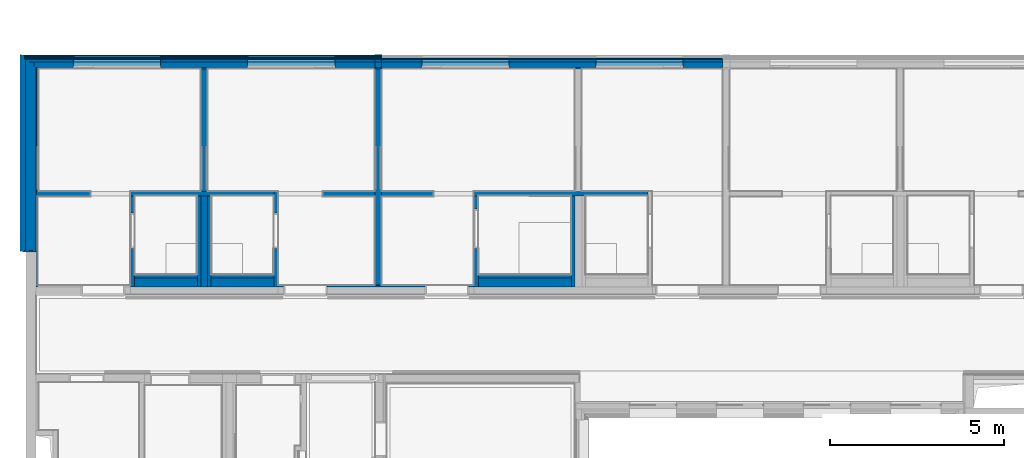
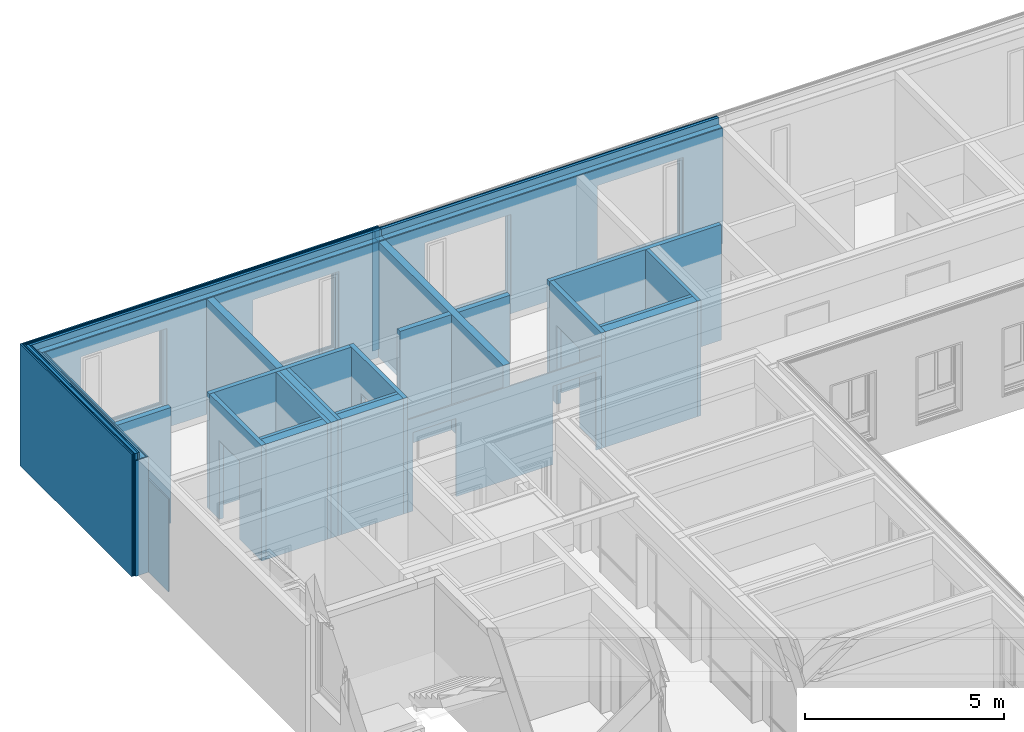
# One storey, part 35 of 222: 51 walls, 27 openings.
"""IFC4 building model written with IfcOpenShell, lengths in metres."""

from ifc_helpers import new_model, entity, si_unit, converted_unit, derived_unit, frame, frame_2d, origin, origin_with_axes, place, context, subcontext, project, spatial, polyline, rectangle, outline, extrude, material, element, save


model = new_model("IFC4")

# Units and contexts
model_context = context("Model", 3, precision=1e-05, world=origin())
body_context = subcontext(model_context, "Body", "Model", "MODEL_VIEW")
ifc_project = project(units=[si_unit("LENGTHUNIT", "METRE"), si_unit("AREAUNIT", "SQUARE_METRE"), si_unit("VOLUMEUNIT", "CUBIC_METRE"), si_unit("MASSUNIT", "GRAM", prefix="KILO"), converted_unit("PLANEANGLEUNIT", "DEGREE", entity("IfcPlaneAngleMeasure", 0.0174532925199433), si_unit("PLANEANGLEUNIT", "RADIAN"), dimensions=[0, 0, 0, 0, 0, 0, 0]), derived_unit("THERMALTRANSMITTANCEUNIT", [(si_unit("POWERUNIT", "WATT"), 1), (si_unit("THERMODYNAMICTEMPERATUREUNIT", "KELVIN"), -1), (si_unit("LENGTHUNIT", "METRE"), -2)]), derived_unit("VOLUMETRICFLOWRATEUNIT", [(si_unit("LENGTHUNIT", "METRE"), 3), (converted_unit("TIMEUNIT", "hour", entity("IfcTimeMeasure", 3600.0), si_unit("TIMEUNIT", "SECOND"), dimensions=[0, 0, 1, 0, 0, 0, 0]), -1), (si_unit("LENGTHUNIT", "METRE"), -1)])], contexts=[model_context])

# Site, building, storey
site_placement = place(None, origin())
site = spatial("IfcSite", under=ifc_project, at=site_placement, Name="Psychiatrie Neubau Wunstorf", CompositionType="ELEMENT")
building_placement = place(site_placement, origin())
building = spatial("IfcBuilding", under=site, at=building_placement, Name="Neubau H2 Stationsgebäude", CompositionType="ELEMENT")
storey_placement = place(building_placement, frame((0.0, 0.0, 3.6)))
storey = spatial("IfcBuildingStorey", under=building, at=storey_placement, Name="H2 Ebene +1", CompositionType="ELEMENT", Elevation=3.6)

# Wall
ifc_material_1 = material(Name="WA-LB")
wall_1_placement = place(storey_placement, frame((0.168999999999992, 25.3892625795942, 0.0), z_axis=(0.0, 0.0, 1.0), x_axis=(-1.0, 0.0, 0.0)))
element("IfcWall", 1, at=wall_1_placement, inside=storey, material=ifc_material_1, context=body_context, shape_type="SweptSolid", body=[
    extrude(rectangle(XDim=0.37, YDim=0.036, at=frame_2d((0.185, 0.018), x_axis=(1.0, 0.0))), origin_with_axes(), (0.0, 0.0, 1.0), 3.55),
])

# Wall, openings
ifc_material_2 = material(Name="WA-LB")
wall_2_placement = place(storey_placement, frame((10.1, 30.614, 0.0)))
wall_2 = element("IfcWall", 2, at=wall_2_placement, inside=storey, material=ifc_material_2, context=body_context, shape_type="SweptSolid", body=[
    extrude(rectangle(XDim=9.8, YDim=0.036, at=frame_2d((4.9, 0.018), x_axis=(1.0, 0.0))), origin_with_axes(), (0.0, 0.0, 1.0), 3.55),
])
opening_1_placement = place(wall_2_placement, frame((1.15, 0.0, 0.55), z_axis=(0.0, 1.0, 0.0), x_axis=(0.0, 0.0, 1.0)))
element("IfcOpeningElement", 3, at=opening_1_placement, cuts=wall_2, Name="Fensteröffnung", ObjectType="Opening", context=body_context, shape_type="SweptSolid", body=[
    extrude(outline(polyline([(2.5, 2.5), (2.5, 0.0), (0.0, 0.0), (0.0, 2.5), (2.5, 2.5)])), origin_with_axes(), (0.0, 0.0, 1.0), 0.036),
])
opening_2_placement = place(wall_2_placement, frame((6.15, 0.0, 0.55), z_axis=(0.0, 1.0, 0.0), x_axis=(0.0, 0.0, 1.0)))
element("IfcOpeningElement", 4, at=opening_2_placement, cuts=wall_2, Name="Fensteröffnung", ObjectType="Opening", context=body_context, shape_type="SweptSolid", body=[
    extrude(outline(polyline([(2.5, 2.5), (2.5, 0.0), (0.0, 0.0), (0.0, 2.5), (2.5, 2.5)])), origin_with_axes(), (0.0, 0.0, 1.0), 0.036),
])

ifc_material_3 = material(Name="WA-HD")
wall_3_placement = place(storey_placement, frame((10.1, 30.65, 0.0)))
wall_3 = element("IfcWall", 5, at=wall_3_placement, inside=storey, material=ifc_material_3, context=body_context, shape_type="SweptSolid", body=[
    extrude(rectangle(XDim=9.8, YDim=0.16, at=frame_2d((4.9, 0.08), x_axis=(1.0, 0.0))), origin_with_axes(), (0.0, 0.0, 1.0), 3.55),
])
opening_3_placement = place(wall_3_placement, frame((1.15, 0.0, 0.55), z_axis=(0.0, 1.0, 0.0), x_axis=(0.0, 0.0, 1.0)))
element("IfcOpeningElement", 6, at=opening_3_placement, cuts=wall_3, Name="Fensteröffnung", ObjectType="Opening", context=body_context, shape_type="SweptSolid", body=[
    extrude(outline(polyline([(2.5, 2.5), (2.5, 0.0), (0.0, 0.0), (0.0, 2.5), (2.5, 2.5)])), origin_with_axes(), (0.0, 0.0, 1.0), 0.16),
])
opening_4_placement = place(wall_3_placement, frame((6.15, 0.0, 0.55), z_axis=(0.0, 1.0, 0.0), x_axis=(0.0, 0.0, 1.0)))
element("IfcOpeningElement", 7, at=opening_4_placement, cuts=wall_3, Name="Fensteröffnung", ObjectType="Opening", context=body_context, shape_type="SweptSolid", body=[
    extrude(outline(polyline([(2.5, 2.5), (2.5, 0.0), (0.0, 0.0), (0.0, 2.5), (2.5, 2.5)])), origin_with_axes(), (0.0, 0.0, 1.0), 0.16),
])

ifc_material_4 = material(Name="WA-DL")
wall_4_placement = place(storey_placement, frame((10.1, 30.81, 0.0)))
wall_4 = element("IfcWall", 8, at=wall_4_placement, inside=storey, material=ifc_material_4, context=body_context, shape_type="SweptSolid", body=[
    extrude(rectangle(XDim=9.8, YDim=0.08, at=frame_2d((4.9, 0.04), x_axis=(1.0, 0.0))), origin_with_axes(), (0.0, 0.0, 1.0), 3.75),
])
opening_5_placement = place(wall_4_placement, frame((1.15, 0.0, 0.55), z_axis=(0.0, 1.0, 0.0), x_axis=(0.0, 0.0, 1.0)))
element("IfcOpeningElement", 9, at=opening_5_placement, cuts=wall_4, Name="Fensteröffnung", ObjectType="Opening", context=body_context, shape_type="SweptSolid", body=[
    extrude(outline(polyline([(2.5, 2.5), (2.5, 0.0), (0.0, 0.0), (0.0, 2.5), (2.5, 2.5)])), origin_with_axes(), (0.0, 0.0, 1.0), 0.08),
])
opening_6_placement = place(wall_4_placement, frame((6.15, 0.0, 0.55), z_axis=(0.0, 1.0, 0.0), x_axis=(0.0, 0.0, 1.0)))
element("IfcOpeningElement", 10, at=opening_6_placement, cuts=wall_4, Name="Fensteröffnung", ObjectType="Opening", context=body_context, shape_type="SweptSolid", body=[
    extrude(outline(polyline([(2.5, 2.5), (2.5, 0.0), (0.0, 0.0), (0.0, 2.5), (2.5, 2.5)])), origin_with_axes(), (0.0, 0.0, 1.0), 0.08),
])

ifc_material_5 = material(Name="WA-LB")
wall_5_placement = place(storey_placement, frame((10.1, 30.89, 0.0)))
wall_5 = element("IfcWall", 11, at=wall_5_placement, inside=storey, material=ifc_material_5, context=body_context, shape_type="SweptSolid", body=[
    extrude(rectangle(XDim=9.8, YDim=0.036, at=frame_2d((4.9, 0.018), x_axis=(1.0, 0.0))), origin_with_axes(), (0.0, 0.0, 1.0), 3.75),
])
opening_7_placement = place(wall_5_placement, frame((1.15, 0.0, 0.55), z_axis=(0.0, 1.0, 0.0), x_axis=(0.0, 0.0, 1.0)))
element("IfcOpeningElement", 12, at=opening_7_placement, cuts=wall_5, Name="Fensteröffnung", ObjectType="Opening", context=body_context, shape_type="SweptSolid", body=[
    extrude(outline(polyline([(2.5, 2.5), (2.5, 0.0), (0.0, 0.0), (0.0, 2.5), (2.5, 2.5)])), origin_with_axes(), (0.0, 0.0, 1.0), 0.036),
])
opening_8_placement = place(wall_5_placement, frame((6.15, 0.0, 0.55), z_axis=(0.0, 1.0, 0.0), x_axis=(0.0, 0.0, 1.0)))
element("IfcOpeningElement", 13, at=opening_8_placement, cuts=wall_5, Name="Fensteröffnung", ObjectType="Opening", context=body_context, shape_type="SweptSolid", body=[
    extrude(outline(polyline([(2.5, 2.5), (2.5, 0.0), (0.0, 0.0), (0.0, 2.5), (2.5, 2.5)])), origin_with_axes(), (0.0, 0.0, 1.0), 0.036),
])

# Walls
ifc_material_6 = material(Name="WA-LB")
wall_6_placement = place(storey_placement, frame((9.9, 30.614, 0.0)))
element("IfcWall", 14, at=wall_6_placement, inside=storey, material=ifc_material_6, Name="2x Gipsfaserplatte", context=body_context, shape_type="SweptSolid", body=[
    extrude(rectangle(XDim=0.2, YDim=0.036, at=frame_2d((0.1, 0.018), x_axis=(1.0, 0.0))), origin_with_axes(), (0.0, 0.0, 1.0), 3.55),
])
ifc_material_7 = material(Name="WA-HD")
wall_7_placement = place(storey_placement, frame((9.9, 30.65, 0.0)))
element("IfcWall", 15, at=wall_7_placement, inside=storey, material=ifc_material_7, Name="Holzständer + Zwischendämmung", context=body_context, shape_type="SweptSolid", body=[
    extrude(rectangle(XDim=0.2, YDim=0.16, at=frame_2d((0.1, 0.08), x_axis=(1.0, 0.0))), origin_with_axes(), (0.0, 0.0, 1.0), 3.55),
])
ifc_material_8 = material(Name="WA-DL")
wall_8_placement = place(storey_placement, frame((9.9, 30.81, 0.0)))
element("IfcWall", 16, at=wall_8_placement, inside=storey, material=ifc_material_8, Name="Staffel + Zwischendämmung", context=body_context, shape_type="SweptSolid", body=[
    extrude(rectangle(XDim=0.2, YDim=0.08, at=frame_2d((0.1, 0.04), x_axis=(1.0, 0.0))), origin_with_axes(), (0.0, 0.0, 1.0), 3.75),
])
ifc_material_9 = material(Name="WA-LB")
wall_9_placement = place(storey_placement, frame((9.9, 30.89, 0.0)))
element("IfcWall", 17, at=wall_9_placement, inside=storey, material=ifc_material_9, context=body_context, shape_type="SweptSolid", body=[
    extrude(rectangle(XDim=0.2, YDim=0.036, at=frame_2d((0.1, 0.018), x_axis=(1.0, 0.0))), origin_with_axes(), (0.0, 0.0, 1.0), 3.75),
])
ifc_material_10 = material(Name="WA-KL")
wall_10_placement = place(storey_placement, frame((9.9, 30.926, 0.0)))
element("IfcWall", 18, at=wall_10_placement, inside=storey, material=ifc_material_10, Name="Konterlattung", context=body_context, shape_type="SweptSolid", body=[
    extrude(rectangle(XDim=0.2, YDim=0.024, at=frame_2d((0.1, 0.012), x_axis=(1.0, 0.0))), origin_with_axes(), (0.0, 0.0, 1.0), 3.75),
])
ifc_material_11 = material(Name="WA-TL")
wall_11_placement = place(storey_placement, frame((9.9, 30.95, 0.0)))
element("IfcWall", 19, at=wall_11_placement, inside=storey, material=ifc_material_11, Name="Traglattung", context=body_context, shape_type="SweptSolid", body=[
    extrude(rectangle(XDim=0.2, YDim=0.024, at=frame_2d((0.1, 0.012), x_axis=(1.0, 0.0))), origin_with_axes(), (0.0, 0.0, 1.0), 3.75),
])
ifc_material_12 = material(Name="WA-HS")
wall_12_placement = place(storey_placement, frame((9.9, 30.974, 0.0)))
element("IfcWall", 20, at=wall_12_placement, inside=storey, material=ifc_material_12, Name="Holzschindel", context=body_context, shape_type="SweptSolid", body=[
    extrude(rectangle(XDim=0.2, YDim=0.042, at=frame_2d((0.1, 0.021), x_axis=(1.0, 0.0))), origin_with_axes(), (0.0, 0.0, 1.0), 3.75),
])

# Wall, openings
ifc_material_13 = material(Name="WA-LB")
wall_13_placement = place(storey_placement, frame((0.169, 30.614, 0.0)))
wall_13 = element("IfcWall", 21, at=wall_13_placement, inside=storey, material=ifc_material_13, context=body_context, shape_type="SweptSolid", body=[
    extrude(rectangle(XDim=9.731, YDim=0.036, at=frame_2d((4.8655, 0.018), x_axis=(1.0, 0.0))), origin_with_axes(), (0.0, 0.0, 1.0), 3.55),
])
opening_9_placement = place(wall_13_placement, frame((6.081, 0.0, 0.55), z_axis=(0.0, 1.0, 0.0), x_axis=(0.0, 0.0, 1.0)))
element("IfcOpeningElement", 22, at=opening_9_placement, cuts=wall_13, Name="Fensteröffnung", ObjectType="Opening", context=body_context, shape_type="SweptSolid", body=[
    extrude(outline(polyline([(2.5, 2.5), (2.5, 0.0), (0.0, 0.0), (0.0, 2.5), (2.5, 2.5)])), origin_with_axes(), (0.0, 0.0, 1.0), 0.036),
])
opening_10_placement = place(wall_13_placement, frame((1.081, 0.0, 0.55), z_axis=(0.0, 1.0, 0.0), x_axis=(0.0, 0.0, 1.0)))
element("IfcOpeningElement", 23, at=opening_10_placement, cuts=wall_13, Name="Fensteröffnung", ObjectType="Opening", context=body_context, shape_type="SweptSolid", body=[
    extrude(outline(polyline([(2.5, 2.5), (2.5, 0.0), (0.0, 0.0), (0.0, 2.5), (2.5, 2.5)])), origin_with_axes(), (0.0, 0.0, 1.0), 0.036),
])

ifc_material_14 = material(Name="WA-HD")
wall_14_placement = place(storey_placement, frame((0.114, 30.65, 0.0)))
wall_14 = element("IfcWall", 24, at=wall_14_placement, inside=storey, material=ifc_material_14, context=body_context, shape_type="SweptSolid", body=[
    extrude(rectangle(XDim=9.786, YDim=0.16, at=frame_2d((4.893, 0.08), x_axis=(1.0, 0.0))), origin_with_axes(), (0.0, 0.0, 1.0), 3.55),
])
opening_11_placement = place(wall_14_placement, frame((6.136, 0.0, 0.55), z_axis=(0.0, 1.0, 0.0), x_axis=(0.0, 0.0, 1.0)))
element("IfcOpeningElement", 25, at=opening_11_placement, cuts=wall_14, Name="Fensteröffnung", ObjectType="Opening", context=body_context, shape_type="SweptSolid", body=[
    extrude(outline(polyline([(2.5, 2.5), (2.5, 0.0), (0.0, 0.0), (0.0, 2.5), (2.5, 2.5)])), origin_with_axes(), (0.0, 0.0, 1.0), 0.16),
])
opening_12_placement = place(wall_14_placement, frame((1.136, 0.0, 0.55), z_axis=(0.0, 1.0, 0.0), x_axis=(0.0, 0.0, 1.0)))
element("IfcOpeningElement", 26, at=opening_12_placement, cuts=wall_14, Name="Fensteröffnung", ObjectType="Opening", context=body_context, shape_type="SweptSolid", body=[
    extrude(outline(polyline([(2.5, 2.5), (2.5, 0.0), (0.0, 0.0), (0.0, 2.5), (2.5, 2.5)])), origin_with_axes(), (0.0, 0.0, 1.0), 0.16),
])

ifc_material_15 = material(Name="WA-DL")
wall_15_placement = place(storey_placement, frame((-0.121, 30.81, 0.0)))
wall_15 = element("IfcWall", 27, at=wall_15_placement, inside=storey, material=ifc_material_15, context=body_context, shape_type="SweptSolid", body=[
    extrude(rectangle(XDim=10.021, YDim=0.08, at=frame_2d((5.0105, 0.04), x_axis=(1.0, 0.0))), origin_with_axes(), (0.0, 0.0, 1.0), 3.75),
])
opening_13_placement = place(wall_15_placement, frame((6.371, 0.0, 0.55), z_axis=(0.0, 1.0, 0.0), x_axis=(0.0, 0.0, 1.0)))
element("IfcOpeningElement", 28, at=opening_13_placement, cuts=wall_15, Name="Fensteröffnung", ObjectType="Opening", context=body_context, shape_type="SweptSolid", body=[
    extrude(outline(polyline([(2.5, 2.5), (2.5, 0.0), (0.0, 0.0), (0.0, 2.5), (2.5, 2.5)])), origin_with_axes(), (0.0, 0.0, 1.0), 0.08),
])
opening_14_placement = place(wall_15_placement, frame((1.371, 0.0, 0.55), z_axis=(0.0, 1.0, 0.0), x_axis=(0.0, 0.0, 1.0)))
element("IfcOpeningElement", 29, at=opening_14_placement, cuts=wall_15, Name="Fensteröffnung", ObjectType="Opening", context=body_context, shape_type="SweptSolid", body=[
    extrude(outline(polyline([(2.5, 2.5), (2.5, 0.0), (0.0, 0.0), (0.0, 2.5), (2.5, 2.5)])), origin_with_axes(), (0.0, 0.0, 1.0), 0.08),
])

ifc_material_16 = material(Name="WA-LB")
wall_16_placement = place(storey_placement, frame((-0.201, 30.89, 0.0)))
wall_16 = element("IfcWall", 30, at=wall_16_placement, inside=storey, material=ifc_material_16, context=body_context, shape_type="SweptSolid", body=[
    extrude(rectangle(XDim=10.101, YDim=0.036, at=frame_2d((5.0505, 0.018), x_axis=(1.0, 0.0))), origin_with_axes(), (0.0, 0.0, 1.0), 3.75),
])
opening_15_placement = place(wall_16_placement, frame((1.451, 0.0, 0.55), z_axis=(0.0, 1.0, 0.0), x_axis=(0.0, 0.0, 1.0)))
element("IfcOpeningElement", 31, at=opening_15_placement, cuts=wall_16, Name="Fensteröffnung", ObjectType="Opening", context=body_context, shape_type="SweptSolid", body=[
    extrude(outline(polyline([(2.5, 2.5), (2.5, 0.0), (0.0, 0.0), (0.0, 2.5), (2.5, 2.5)])), origin_with_axes(), (0.0, 0.0, 1.0), 0.036),
])
opening_16_placement = place(wall_16_placement, frame((6.451, 0.0, 0.55), z_axis=(0.0, 1.0, 0.0), x_axis=(0.0, 0.0, 1.0)))
element("IfcOpeningElement", 32, at=opening_16_placement, cuts=wall_16, Name="Fensteröffnung", ObjectType="Opening", context=body_context, shape_type="SweptSolid", body=[
    extrude(outline(polyline([(2.5, 2.5), (2.5, 0.0), (0.0, 0.0), (0.0, 2.5), (2.5, 2.5)])), origin_with_axes(), (0.0, 0.0, 1.0), 0.036),
])

ifc_material_17 = material(Name="WA-KL")
wall_17_placement = place(storey_placement, frame((-0.201, 30.926, 0.0)))
wall_17 = element("IfcWall", 33, at=wall_17_placement, inside=storey, material=ifc_material_17, context=body_context, shape_type="SweptSolid", body=[
    extrude(rectangle(XDim=10.101, YDim=0.024, at=frame_2d((5.0505, 0.012), x_axis=(1.0, 0.0))), origin_with_axes(), (0.0, 0.0, 1.0), 3.75),
])
opening_17_placement = place(wall_17_placement, frame((6.451, 0.0, 0.55), z_axis=(0.0, 1.0, 0.0), x_axis=(0.0, 0.0, 1.0)))
element("IfcOpeningElement", 34, at=opening_17_placement, cuts=wall_17, Name="Fensteröffnung", ObjectType="Opening", context=body_context, shape_type="SweptSolid", body=[
    extrude(outline(polyline([(2.5, 2.5), (2.5, 0.0), (0.0, 0.0), (0.0, 2.5), (2.5, 2.5)])), origin_with_axes(), (0.0, 0.0, 1.0), 0.024),
])
opening_18_placement = place(wall_17_placement, frame((1.451, 0.0, 0.55), z_axis=(0.0, 1.0, 0.0), x_axis=(0.0, 0.0, 1.0)))
element("IfcOpeningElement", 35, at=opening_18_placement, cuts=wall_17, Name="Fensteröffnung", ObjectType="Opening", context=body_context, shape_type="SweptSolid", body=[
    extrude(outline(polyline([(2.5, 2.5), (2.5, 0.0), (0.0, 0.0), (0.0, 2.5), (2.5, 2.5)])), origin_with_axes(), (0.0, 0.0, 1.0), 0.024),
])

ifc_material_18 = material(Name="WA-TL")
wall_18_placement = place(storey_placement, frame((-0.226, 30.95, 0.0)))
wall_18 = element("IfcWall", 36, at=wall_18_placement, inside=storey, material=ifc_material_18, context=body_context, shape_type="SweptSolid", body=[
    extrude(rectangle(XDim=10.126, YDim=0.024, at=frame_2d((5.063, 0.012), x_axis=(1.0, 0.0))), origin_with_axes(), (0.0, 0.0, 1.0), 3.75),
])
opening_19_placement = place(wall_18_placement, frame((6.476, 0.0, 0.55), z_axis=(0.0, 1.0, 0.0), x_axis=(0.0, 0.0, 1.0)))
element("IfcOpeningElement", 37, at=opening_19_placement, cuts=wall_18, Name="Fensteröffnung", ObjectType="Opening", context=body_context, shape_type="SweptSolid", body=[
    extrude(outline(polyline([(2.5, 2.5), (2.5, 0.0), (0.0, 0.0), (0.0, 2.5), (2.5, 2.5)])), origin_with_axes(), (0.0, 0.0, 1.0), 0.024),
])
opening_20_placement = place(wall_18_placement, frame((1.476, 0.0, 0.55), z_axis=(0.0, 1.0, 0.0), x_axis=(0.0, 0.0, 1.0)))
element("IfcOpeningElement", 38, at=opening_20_placement, cuts=wall_18, Name="Fensteröffnung", ObjectType="Opening", context=body_context, shape_type="SweptSolid", body=[
    extrude(outline(polyline([(2.5, 2.5), (2.5, 0.0), (0.0, 0.0), (0.0, 2.5), (2.5, 2.5)])), origin_with_axes(), (0.0, 0.0, 1.0), 0.024),
])

ifc_material_19 = material(Name="WA-HS")
wall_19_placement = place(storey_placement, frame((-0.251, 30.974, 0.0)))
wall_19 = element("IfcWall", 39, at=wall_19_placement, inside=storey, material=ifc_material_19, context=body_context, shape_type="SweptSolid", body=[
    extrude(rectangle(XDim=10.151, YDim=0.042, at=frame_2d((5.0755, 0.021), x_axis=(1.0, 0.0))), origin_with_axes(), (0.0, 0.0, 1.0), 3.75),
])
opening_21_placement = place(wall_19_placement, frame((6.501, 0.0, 0.55), z_axis=(0.0, 1.0, 0.0), x_axis=(0.0, 0.0, 1.0)))
element("IfcOpeningElement", 40, at=opening_21_placement, cuts=wall_19, Name="Fensteröffnung", ObjectType="Opening", context=body_context, shape_type="SweptSolid", body=[
    extrude(outline(polyline([(2.5, 2.5), (2.5, 0.0), (0.0, 0.0), (0.0, 2.5), (2.5, 2.5)])), origin_with_axes(), (0.0, 0.0, 1.0), 0.042),
])
opening_22_placement = place(wall_19_placement, frame((1.501, 0.0, 0.55), z_axis=(0.0, 1.0, 0.0), x_axis=(0.0, 0.0, 1.0)))
element("IfcOpeningElement", 41, at=opening_22_placement, cuts=wall_19, Name="Fensteröffnung", ObjectType="Opening", context=body_context, shape_type="SweptSolid", body=[
    extrude(outline(polyline([(2.5, 2.5), (2.5, 0.0), (0.0, 0.0), (0.0, 2.5), (2.5, 2.5)])), origin_with_axes(), (0.0, 0.0, 1.0), 0.042),
])

# Walls
ifc_material_20 = material(Name="WA-LB")
wall_20_placement = place(storey_placement, frame((0.168999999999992, 25.3892625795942, 0.0), z_axis=(0.0, 0.0, 1.0), x_axis=(1.72883500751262e-16, 1.0, 0.0)))
element("IfcWall", 42, at=wall_20_placement, inside=storey, material=ifc_material_20, Name="2x Gipsfaserplatte", context=body_context, shape_type="SweptSolid", body=[
    extrude(rectangle(XDim=5.26073742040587, YDim=0.0359999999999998, at=frame_2d((2.63036871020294, 0.0179999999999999), x_axis=(1.0, 0.0))), origin_with_axes(), (0.0, 0.0, 1.0), 3.55),
])
ifc_material_21 = material(Name="WA-LB")
wall_21_placement = place(storey_placement, frame((0.132999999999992, 25.3892625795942, 0.0), z_axis=(0.0, 0.0, 1.0), x_axis=(2.16104375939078e-16, 1.0, 0.0)))
element("IfcWall", 43, at=wall_21_placement, inside=storey, material=ifc_material_21, Name="2x Gipsfaserplatte", context=body_context, shape_type="SweptSolid", body=[
    extrude(rectangle(XDim=5.26073742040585, YDim=0.0189999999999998, at=frame_2d((2.63036871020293, 0.00949999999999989), x_axis=(1.0, 0.0))), origin_with_axes(), (0.0, 0.0, 1.0), 3.55),
])
ifc_material_22 = material(Name="WA-DL")
wall_22_placement = place(storey_placement, frame((0.113999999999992, 25.3892625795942, 0.0), z_axis=(0.0, 0.0, 1.0), x_axis=(2.51670934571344e-16, 1.0, 0.0)))
element("IfcWall", 44, at=wall_22_placement, inside=storey, material=ifc_material_22, Name="Holzständer + Zwischendämmung", context=body_context, shape_type="SweptSolid", body=[
    extrude(rectangle(XDim=5.42073742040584, YDim=0.18, at=frame_2d((2.71036871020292, 0.09), x_axis=(1.0, 0.0))), origin_with_axes(), (0.0, 0.0, 1.0), 3.55),
])
ifc_material_23 = material(Name="WA-LB")
wall_23_placement = place(storey_placement, frame((-0.0660000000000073, 25.3892625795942, 0.0), z_axis=(0.0, 0.0, 1.0), x_axis=(1.67780623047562e-16, 1.0, 0.0)))
element("IfcWall", 45, at=wall_23_placement, inside=storey, material=ifc_material_23, context=body_context, shape_type="SweptSolid", body=[
    extrude(rectangle(XDim=5.42073742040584, YDim=0.019, at=frame_2d((2.71036871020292, 0.0095), x_axis=(1.0, 0.0))), origin_with_axes(), (0.0, 0.0, 1.0), 3.75),
])
ifc_material_24 = material(Name="WA-LB")
wall_24_placement = place(storey_placement, frame((-0.0850000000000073, 25.3892625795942, 0.0), z_axis=(0.0, 0.0, 1.0), x_axis=(1.67780623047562e-16, 1.0, 0.0)))
element("IfcWall", 46, at=wall_24_placement, inside=storey, material=ifc_material_24, context=body_context, shape_type="SweptSolid", body=[
    extrude(rectangle(XDim=5.42073742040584, YDim=0.036, at=frame_2d((2.71036871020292, 0.018), x_axis=(1.0, 0.0))), origin_with_axes(), (0.0, 0.0, 1.0), 3.75),
])
ifc_material_25 = material(Name="WA-DL")
wall_25_placement = place(storey_placement, frame((-0.121000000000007, 25.3892625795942, 0.0), z_axis=(0.0, 0.0, 1.0), x_axis=(1.6534050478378e-16, 1.0, 0.0)))
element("IfcWall", 47, at=wall_25_placement, inside=storey, material=ifc_material_25, Name="Staffel + Zwischendämmung", context=body_context, shape_type="SweptSolid", body=[
    extrude(rectangle(XDim=5.50073742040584, YDim=0.08, at=frame_2d((2.75036871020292, 0.04), x_axis=(1.0, 0.0))), origin_with_axes(), (0.0, 0.0, 1.0), 3.75),
])
ifc_material_26 = material(Name="WA-KL")
wall_26_placement = place(storey_placement, frame((-0.201000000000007, 25.3892625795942, 0.0), z_axis=(0.0, 0.0, 1.0), x_axis=(1.6355649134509e-16, 1.0, 0.0)))
element("IfcWall", 48, at=wall_26_placement, inside=storey, material=ifc_material_26, Name="Konterlattung", context=body_context, shape_type="SweptSolid", body=[
    extrude(rectangle(XDim=5.56073742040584, YDim=0.025, at=frame_2d((2.78036871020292, 0.0125), x_axis=(1.0, 0.0))), origin_with_axes(), (0.0, 0.0, 1.0), 3.75),
])
ifc_material_27 = material(Name="WA-TL")
wall_27_placement = place(storey_placement, frame((-0.226000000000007, 25.3892625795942, 0.0), z_axis=(0.0, 0.0, 1.0), x_axis=(1.62853619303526e-16, 1.0, 0.0)))
element("IfcWall", 49, at=wall_27_placement, inside=storey, material=ifc_material_27, Name="Traglattung", context=body_context, shape_type="SweptSolid", body=[
    extrude(rectangle(XDim=5.58473742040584, YDim=0.025, at=frame_2d((2.79236871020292, 0.0125), x_axis=(1.0, 0.0))), origin_with_axes(), (0.0, 0.0, 1.0), 3.75),
])
ifc_material_28 = material(Name="WA-HS")
wall_28_placement = place(storey_placement, frame((-0.251000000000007, 25.3892625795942, 0.0), z_axis=(0.0, 0.0, 1.0), x_axis=(1.6163802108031e-16, 1.0, 0.0)))
element("IfcWall", 50, at=wall_28_placement, inside=storey, material=ifc_material_28, Name="Keramikschindel", context=body_context, shape_type="SweptSolid", body=[
    extrude(rectangle(XDim=5.62673742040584, YDim=0.042, at=frame_2d((2.81336871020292, 0.021), x_axis=(1.0, 0.0))), origin_with_axes(), (0.0, 0.0, 1.0), 3.75),
])

# Wall, opening
ifc_material_29 = material(Name="WI-LB")
wall_29_placement = place(storey_placement, frame((12.875, 24.3495, 0.0), z_axis=(0.0, 0.0, 1.0), x_axis=(0.0, 1.0, 0.0)))
wall_29 = element("IfcWall", 51, at=wall_29_placement, inside=storey, material=ifc_material_29, context=body_context, shape_type="SweptSolid", body=[
    extrude(rectangle(XDim=2.61499999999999, YDim=0.125, at=frame_2d((1.3075, 0.0625), x_axis=(1.0, 0.0))), origin_with_axes(), (0.0, 0.0, 1.0), 3.55),
])
opening_23_placement = place(wall_29_placement, frame((1.10499999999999, 0.0, 0.0), z_axis=(0.0, 1.0, 0.0), x_axis=(0.0, 0.0, 1.0)))
element("IfcOpeningElement", 52, at=opening_23_placement, cuts=wall_29, Name="Türöffnung", ObjectType="Opening", context=body_context, shape_type="SweptSolid", body=[
    extrude(outline(polyline([(2.41, 1.135), (2.41, 0.0), (0.0, 0.0), (0.0, 1.135), (2.41, 1.135)])), origin_with_axes(), (0.0, 0.0, 1.0), 0.125),
])

# Wall
ifc_material_30 = material(Name="WI-LB")
wall_30_placement = place(storey_placement, frame((9.90000000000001, 30.614, 0.0), z_axis=(0.0, 0.0, 1.0), x_axis=(0.0, -1.0, 0.0)))
element("IfcWall", 53, at=wall_30_placement, inside=storey, material=ifc_material_30, context=body_context, shape_type="SweptSolid", body=[
    extrude(rectangle(XDim=6.26450000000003, YDim=0.2, at=frame_2d((3.13225000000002, 0.1), x_axis=(1.0, 0.0))), origin_with_axes(), (0.0, 0.0, 1.0), 3.55),
])

# Wall, openings
ifc_material_31 = material(Name="WI-LB")
wall_31_placement = place(storey_placement, frame((7.125, 24.3495, 0.0), z_axis=(0.0, 0.0, 1.0), x_axis=(1.0, -6.46751787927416e-16, 0.0)))
wall_31 = element("IfcWall", 54, at=wall_31_placement, inside=storey, material=ifc_material_31, context=body_context, shape_type="SweptSolid", body=[
    extrude(rectangle(XDim=5.625, YDim=0.0399999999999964, at=frame_2d((2.8125, 0.0199999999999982), x_axis=(1.0, 0.0))), origin_with_axes(), (0.0, 0.0, 1.0), 2.85),
])
opening_24_placement = place(wall_31_placement, frame((0.149999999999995, 0.0, 0.0), z_axis=(-7.10542735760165e-16, 1.0, 0.0), x_axis=(0.0, 0.0, 1.0)))
element("IfcOpeningElement", 55, at=opening_24_placement, cuts=wall_31, Name="Türöffnung", ObjectType="Opening", context=body_context, shape_type="SweptSolid", body=[
    extrude(outline(polyline([(2.41, 1.26), (2.41, 0.0), (0.0, 0.0), (0.0, 1.26), (2.41, 1.26)])), origin_with_axes(), (0.0, 0.0, 1.0), 0.0399999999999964),
])
opening_25_placement = place(wall_31_placement, frame((4.21500000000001, 0.0, 0.0), z_axis=(0.0, 1.0, 0.0), x_axis=(0.0, 0.0, 1.0)))
element("IfcOpeningElement", 56, at=opening_25_placement, cuts=wall_31, Name="Türöffnung", ObjectType="Opening", context=body_context, shape_type="SweptSolid", body=[
    extrude(outline(polyline([(2.41, 1.26), (2.41, 0.0), (0.0, 0.0), (0.0, 1.26), (2.41, 1.26)])), origin_with_axes(), (0.0, 0.0, 1.0), 0.0399999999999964),
])

# Walls
ifc_material_32 = material(Name="WI-LB")
wall_32_placement = place(storey_placement, frame((12.75, 26.9645, 0.0)))
element("IfcWall", 57, at=wall_32_placement, inside=storey, material=ifc_material_32, context=body_context, shape_type="SweptSolid", body=[
    extrude(rectangle(XDim=5.0, YDim=0.125, at=frame_2d((2.5, 0.0625), x_axis=(1.0, 0.0))), origin_with_axes(), (0.0, 0.0, 1.0), 3.55),
])
ifc_material_33 = material(Name="WI-LB")
wall_33_placement = place(storey_placement, frame((10.1, 26.9395, 0.0)))
element("IfcWall", 58, at=wall_33_placement, inside=storey, material=ifc_material_33, context=body_context, shape_type="SweptSolid", body=[
    extrude(rectangle(XDim=1.5, YDim=0.15, at=frame_2d((0.75, 0.075), x_axis=(1.0, 0.0))), origin_with_axes(), (0.0, 0.0, 1.0), 3.55),
])
ifc_material_34 = material(Name="WI-LB")
wall_34_placement = place(storey_placement, frame((8.39999999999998, 26.9395, 0.0)))
element("IfcWall", 59, at=wall_34_placement, inside=storey, material=ifc_material_34, context=body_context, shape_type="SweptSolid", body=[
    extrude(rectangle(XDim=1.5, YDim=0.15, at=frame_2d((0.75, 0.075), x_axis=(1.0, 0.0))), origin_with_axes(), (0.0, 0.0, 1.0), 3.55),
])
ifc_material_35 = material(Name="WI-LB")
wall_35_placement = place(storey_placement, frame((2.87500000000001, 26.9645, 0.0), z_axis=(0.0, 0.0, 1.0), x_axis=(1.0, -1.76386851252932e-15, 0.0)))
element("IfcWall", 60, at=wall_35_placement, inside=storey, material=ifc_material_35, context=body_context, shape_type="SweptSolid", body=[
    extrude(rectangle(XDim=4.125, YDim=0.125, at=frame_2d((2.0625, 0.0625), x_axis=(1.0, 0.0))), origin_with_axes(), (0.0, 0.0, 1.0), 3.55),
])
ifc_material_36 = material(Name="WI-IW")
wall_36_placement = place(storey_placement, frame((4.8, 24.6995, 0.0), z_axis=(0.0, 0.0, 1.0), x_axis=(-1.0, 0.0, 0.0)))
element("IfcWall", 61, at=wall_36_placement, inside=storey, material=ifc_material_36, context=body_context, shape_type="SweptSolid", body=[
    extrude(rectangle(XDim=1.8, YDim=0.1, at=frame_2d((0.9, 0.05), x_axis=(1.0, 0.0))), origin_with_axes(), (0.0, 0.0, 1.0), 3.55),
])
ifc_material_37 = material(Name="Installationsraum")
wall_37_placement = place(storey_placement, frame((4.8, 24.5995, 0.0), z_axis=(0.0, 0.0, 1.0), x_axis=(-1.0, 0.0, 0.0)))
element("IfcWall", 62, at=wall_37_placement, inside=storey, material=ifc_material_37, context=body_context, shape_type="SweptSolid", body=[
    extrude(rectangle(XDim=1.8, YDim=0.25, at=frame_2d((0.9, 0.125), x_axis=(1.0, 0.0))), origin_with_axes(), (0.0, 0.0, 1.0), 3.55),
])
ifc_material_38 = material(Name="WI-IW")
wall_38_placement = place(storey_placement, frame((4.8, 26.9645, 0.0), z_axis=(0.0, 0.0, 1.0), x_axis=(0.0, -1.0, 0.0)))
element("IfcWall", 63, at=wall_38_placement, inside=storey, material=ifc_material_38, context=body_context, shape_type="SweptSolid", body=[
    extrude(rectangle(XDim=2.61499999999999, YDim=0.1, at=frame_2d((1.3075, 0.05), x_axis=(1.0, 0.0))), origin_with_axes(), (0.0, 0.0, 1.0), 3.55),
])
ifc_material_39 = material(Name="Installationsraum")
wall_39_placement = place(storey_placement, frame((4.9, 26.9645, 0.0), z_axis=(0.0, 0.0, 1.0), x_axis=(0.0, -1.0, 0.0)))
element("IfcWall", 64, at=wall_39_placement, inside=storey, material=ifc_material_39, context=body_context, shape_type="SweptSolid", body=[
    extrude(rectangle(XDim=2.61499999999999, YDim=0.2, at=frame_2d((1.3075, 0.1), x_axis=(1.0, 0.0))), origin_with_axes(), (0.0, 0.0, 1.0), 3.55),
])
ifc_material_40 = material(Name="WI-IW")
wall_40_placement = place(storey_placement, frame((5.1, 26.9645, 0.0), z_axis=(0.0, 0.0, 1.0), x_axis=(0.0, -1.0, 0.0)))
element("IfcWall", 65, at=wall_40_placement, inside=storey, material=ifc_material_40, context=body_context, shape_type="SweptSolid", body=[
    extrude(rectangle(XDim=2.61499999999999, YDim=0.1, at=frame_2d((1.3075, 0.05), x_axis=(1.0, 0.0))), origin_with_axes(), (0.0, 0.0, 1.0), 3.55),
])
ifc_material_41 = material(Name="WI-IW")
wall_41_placement = place(storey_placement, frame((7.0, 24.6995, 0.0), z_axis=(0.0, 0.0, 1.0), x_axis=(-1.0, 0.0, 0.0)))
element("IfcWall", 66, at=wall_41_placement, inside=storey, material=ifc_material_41, context=body_context, shape_type="SweptSolid", body=[
    extrude(rectangle(XDim=1.8, YDim=0.1, at=frame_2d((0.9, 0.05), x_axis=(1.0, 0.0))), origin_with_axes(), (0.0, 0.0, 1.0), 3.55),
])
ifc_material_42 = material(Name="Installationsraum")
wall_42_placement = place(storey_placement, frame((7.0, 24.5995, 0.0), z_axis=(0.0, 0.0, 1.0), x_axis=(-1.0, 0.0, 0.0)))
element("IfcWall", 67, at=wall_42_placement, inside=storey, material=ifc_material_42, context=body_context, shape_type="SweptSolid", body=[
    extrude(rectangle(XDim=1.8, YDim=0.25, at=frame_2d((0.9, 0.125), x_axis=(1.0, 0.0))), origin_with_axes(), (0.0, 0.0, 1.0), 3.55),
])
ifc_material_43 = material(Name="WI-IW")
wall_43_placement = place(storey_placement, frame((15.55, 24.6995, 0.0), z_axis=(0.0, 0.0, 1.0), x_axis=(-1.0, 0.0, 0.0)))
element("IfcWall", 68, at=wall_43_placement, inside=storey, material=ifc_material_43, context=body_context, shape_type="SweptSolid", body=[
    extrude(rectangle(XDim=2.675, YDim=0.1, at=frame_2d((1.3375, 0.05), x_axis=(1.0, 0.0))), origin_with_axes(), (0.0, 0.0, 1.0), 3.55),
])
ifc_material_44 = material(Name="Installationsraum")
wall_44_placement = place(storey_placement, frame((15.55, 24.5995, 0.0), z_axis=(0.0, 0.0, 1.0), x_axis=(-1.0, 0.0, 0.0)))
element("IfcWall", 69, at=wall_44_placement, inside=storey, material=ifc_material_44, context=body_context, shape_type="SweptSolid", body=[
    extrude(rectangle(XDim=2.675, YDim=0.25, at=frame_2d((1.3375, 0.125), x_axis=(1.0, 0.0))), origin_with_axes(), (0.0, 0.0, 1.0), 3.55),
])
ifc_material_45 = material(Name="WI-IW")
wall_45_placement = place(storey_placement, frame((15.55, 26.9645, 0.0), z_axis=(0.0, 0.0, 1.0), x_axis=(0.0, -1.0, 0.0)))
element("IfcWall", 70, at=wall_45_placement, inside=storey, material=ifc_material_45, context=body_context, shape_type="SweptSolid", body=[
    extrude(rectangle(XDim=2.61499999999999, YDim=0.1, at=frame_2d((1.30749999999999, 0.05), x_axis=(1.0, 0.0))), origin_with_axes(), (0.0, 0.0, 1.0), 3.55),
])
ifc_material_46 = material(Name="WI-LB")
wall_46_placement = place(storey_placement, frame((0.169, 30.614, 0.0), z_axis=(0.0, 0.0, 1.0), x_axis=(-2.4973750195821e-16, -1.0, 0.0)))
element("IfcWall", 71, at=wall_46_placement, inside=storey, material=ifc_material_46, context=body_context, shape_type="SweptSolid", body=[
    extrude(rectangle(XDim=3.52799633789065, YDim=0.075, at=frame_2d((1.76399816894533, 0.0375), x_axis=(1.0, 0.0))), origin_with_axes(), (0.0, 0.0, 1.0), 3.5),
])

# Wall, opening
ifc_material_47 = material(Name="WI-LB")
wall_47_placement = place(storey_placement, frame((7.00000000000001, 27.0895, 0.0), z_axis=(0.0, 0.0, 1.0), x_axis=(-3.31932372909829e-16, -1.0, 0.0)))
wall_47 = element("IfcWall", 72, at=wall_47_placement, inside=storey, material=ifc_material_47, context=body_context, shape_type="SweptSolid", body=[
    extrude(rectangle(XDim=2.73999999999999, YDim=0.125, at=frame_2d((1.37, 0.0625), x_axis=(1.0, 0.0))), origin_with_axes(), (0.0, 0.0, 1.0), 3.55),
])
opening_26_placement = place(wall_47_placement, frame((0.625, 0.0, 0.0), z_axis=(0.0, 1.0, 0.0), x_axis=(0.0, 0.0, 1.0)))
element("IfcOpeningElement", 73, at=opening_26_placement, cuts=wall_47, Name="Türöffnung", ObjectType="Opening", context=body_context, shape_type="SweptSolid", body=[
    extrude(outline(polyline([(2.41, 1.01), (2.41, 0.0), (0.0, 0.0), (0.0, 1.01), (2.41, 1.01)])), origin_with_axes(), (0.0, 0.0, 1.0), 0.125),
])

# Wall
ifc_material_48 = material(Name="WI-LB")
wall_48_placement = place(storey_placement, frame((0.168999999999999, 26.9395, 0.0)))
element("IfcWall", 74, at=wall_48_placement, inside=storey, material=ifc_material_48, context=body_context, shape_type="SweptSolid", body=[
    extrude(rectangle(XDim=1.57499999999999, YDim=0.15, at=frame_2d((0.787499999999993, 0.075), x_axis=(1.0, 0.0))), origin_with_axes(), (0.0, 0.0, 1.0), 3.55),
])

# Wall, opening
ifc_material_49 = material(Name="WI-LB")
wall_49_placement = place(storey_placement, frame((2.87500000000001, 26.9645, 0.0), z_axis=(0.0, 0.0, 1.0), x_axis=(-3.47799121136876e-16, -1.0, 0.0)))
wall_49 = element("IfcWall", 75, at=wall_49_placement, inside=storey, material=ifc_material_49, context=body_context, shape_type="SweptSolid", body=[
    extrude(rectangle(XDim=2.615, YDim=0.125, at=frame_2d((1.3075, 0.0625), x_axis=(1.0, 0.0))), origin_with_axes(), (0.0, 0.0, 1.0), 3.55),
])
opening_27_placement = place(wall_49_placement, frame((1.51, 0.125, 0.0), z_axis=(0.0, -1.0, 0.0), x_axis=(0.0, 0.0, 1.0)))
element("IfcOpeningElement", 76, at=opening_27_placement, cuts=wall_49, Name="Türöffnung", ObjectType="Opening", context=body_context, shape_type="SweptSolid", body=[
    extrude(outline(polyline([(2.41, 1.01), (2.41, 0.0), (0.0, 0.0), (0.0, 1.01), (2.41, 1.01)])), origin_with_axes(), (0.0, 0.0, 1.0), 0.125),
])

# Walls
ifc_material_50 = material(Name="WI-LB")
wall_50_placement = place(storey_placement, frame((4.90000000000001, 30.614, 0.0), z_axis=(0.0, 0.0, 1.0), x_axis=(0.0, -1.0, 0.0)))
element("IfcWall", 77, at=wall_50_placement, inside=storey, material=ifc_material_50, context=body_context, shape_type="SweptSolid", body=[
    extrude(rectangle(XDim=3.52450000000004, YDim=0.2, at=frame_2d((1.76225000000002, 0.1), x_axis=(1.0, 0.0))), origin_with_axes(), (0.0, 0.0, 1.0), 3.55),
])
ifc_material_51 = material(Name="WI-LB")
wall_51_placement = place(storey_placement, frame((0.208999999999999, 24.3495, 0.0), z_axis=(0.0, 0.0, 1.0), x_axis=(1.64604494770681e-16, 1.0, 0.0)))
element("IfcWall", 78, at=wall_51_placement, inside=storey, material=ifc_material_51, context=body_context, shape_type="SweptSolid", body=[
    extrude(rectangle(XDim=2.58999999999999, YDim=0.04, at=frame_2d((1.29499999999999, 0.02), x_axis=(1.0, 0.0))), origin_with_axes(), (0.0, 0.0, 1.0), 2.85),
])

save(model, "model.ifc")
